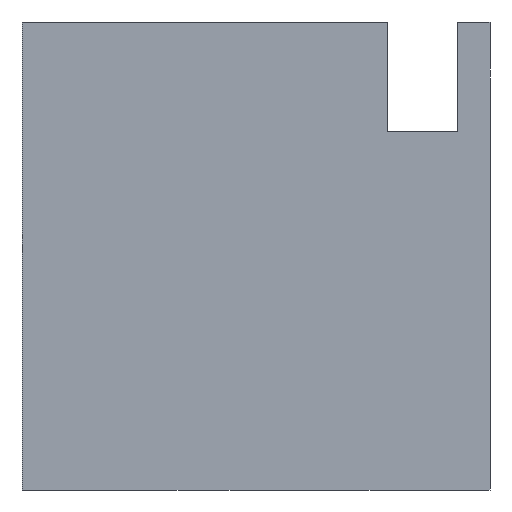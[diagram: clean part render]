
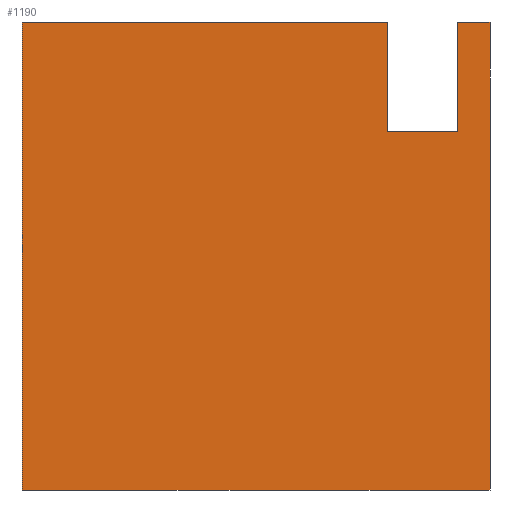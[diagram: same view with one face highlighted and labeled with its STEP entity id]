
A CAD part, left-side view. The second image highlights one B-rep face of the part: STEP entity #1190.
In plain terms, the highlighted planar face has unit normal (-1, 0, 0).
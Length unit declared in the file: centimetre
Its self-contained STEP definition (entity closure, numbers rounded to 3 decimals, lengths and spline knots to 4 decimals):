
#7 = CARTESIAN_POINT ( 'NONE',  ( 0., 1000., 1000. ) ) ;
#11 = VERTEX_POINT ( 'NONE', #374 ) ;
#23 = CARTESIAN_POINT ( 'NONE',  ( 0., 69.7175, 765.1463 ) ) ;
#89 = EDGE_CURVE ( 'NONE', #602, #867, #300, .T. ) ;
#97 = DIRECTION ( 'NONE',  ( 0., 0., -1. ) ) ;
#117 = CARTESIAN_POINT ( 'NONE',  ( 0., 220.0731, 765.1463 ) ) ;
#118 = EDGE_CURVE ( 'NONE', #637, #705, #558, .T. ) ;
#151 = CARTESIAN_POINT ( 'NONE',  ( 0., 1000., 1000. ) ) ;
#164 = ORIENTED_EDGE ( 'NONE', *, *, #118, .F. ) ;
#191 = LINE ( 'NONE', #924, #622 ) ;
#194 = EDGE_CURVE ( 'NONE', #754, #230, #769, .T. ) ;
#205 = LINE ( 'NONE', #23, #477 ) ;
#208 = ORIENTED_EDGE ( 'NONE', *, *, #376, .F. ) ;
#230 = VERTEX_POINT ( 'NONE', #336 ) ;
#244 = EDGE_CURVE ( 'NONE', #705, #1095, #785, .T. ) ;
#251 = DIRECTION ( 'NONE',  ( 0., -1., 0. ) ) ;
#291 = DIRECTION ( 'NONE',  ( 0., 0., -1. ) ) ;
#300 = LINE ( 'NONE', #750, #948 ) ;
#311 = DIRECTION ( 'NONE',  ( 0., 0., 1. ) ) ;
#315 = CARTESIAN_POINT ( 'NONE',  ( 0., 0., 1000. ) ) ;
#327 = DIRECTION ( 'NONE',  ( 0., -1., 0. ) ) ;
#336 = CARTESIAN_POINT ( 'NONE',  ( 0., 0., 0. ) ) ;
#354 = VECTOR ( 'NONE', #251, 100. ) ;
#355 = ORIENTED_EDGE ( 'NONE', *, *, #636, .T. ) ;
#356 = DIRECTION ( 'NONE',  ( 1., 0., 0. ) ) ;
#365 = ORIENTED_EDGE ( 'NONE', *, *, #244, .F. ) ;
#374 = CARTESIAN_POINT ( 'NONE',  ( 0., 69.7175, 1000. ) ) ;
#376 = EDGE_CURVE ( 'NONE', #11, #754, #1059, .T. ) ;
#393 = EDGE_CURVE ( 'NONE', #602, #637, #520, .T. ) ;
#450 = ORIENTED_EDGE ( 'NONE', *, *, #194, .F. ) ;
#472 = CARTESIAN_POINT ( 'NONE',  ( 0., 220.0731, 1000. ) ) ;
#477 = VECTOR ( 'NONE', #311, 100. ) ;
#520 = LINE ( 'NONE', #720, #354 ) ;
#547 = VECTOR ( 'NONE', #327, 100. ) ;
#558 = LINE ( 'NONE', #922, #723 ) ;
#602 = VERTEX_POINT ( 'NONE', #7 ) ;
#619 = FACE_OUTER_BOUND ( 'NONE', #1043, .T. ) ;
#622 = VECTOR ( 'NONE', #909, 100. ) ;
#626 = PLANE ( 'NONE',  #711 ) ;
#636 = EDGE_CURVE ( 'NONE', #867, #230, #191, .T. ) ;
#637 = VERTEX_POINT ( 'NONE', #472 ) ;
#641 = VECTOR ( 'NONE', #1149, 100. ) ;
#683 = CARTESIAN_POINT ( 'NONE',  ( 0., 69.7175, 765.1463 ) ) ;
#687 = DIRECTION ( 'NONE',  ( 0., 0., -1. ) ) ;
#705 = VERTEX_POINT ( 'NONE', #117 ) ;
#711 = AXIS2_PLACEMENT_3D ( 'NONE', #993, #356, #727 ) ;
#720 = CARTESIAN_POINT ( 'NONE',  ( 0., 1000., 1000. ) ) ;
#723 = VECTOR ( 'NONE', #97, 100. ) ;
#727 = DIRECTION ( 'NONE',  ( 0., 0., -1. ) ) ;
#750 = CARTESIAN_POINT ( 'NONE',  ( 0., 1000., 1000. ) ) ;
#754 = VERTEX_POINT ( 'NONE', #856 ) ;
#769 = LINE ( 'NONE', #315, #1099 ) ;
#785 = LINE ( 'NONE', #1153, #547 ) ;
#810 = ORIENTED_EDGE ( 'NONE', *, *, #393, .F. ) ;
#848 = CARTESIAN_POINT ( 'NONE',  ( 0., 1000., 0. ) ) ;
#856 = CARTESIAN_POINT ( 'NONE',  ( 0., 0., 1000. ) ) ;
#867 = VERTEX_POINT ( 'NONE', #848 ) ;
#909 = DIRECTION ( 'NONE',  ( 0., -1., 0. ) ) ;
#922 = CARTESIAN_POINT ( 'NONE',  ( 0., 220.0731, 765.1463 ) ) ;
#923 = ORIENTED_EDGE ( 'NONE', *, *, #947, .F. ) ;
#924 = CARTESIAN_POINT ( 'NONE',  ( 0., 1000., 0. ) ) ;
#947 = EDGE_CURVE ( 'NONE', #1095, #11, #205, .T. ) ;
#948 = VECTOR ( 'NONE', #291, 100. ) ;
#993 = CARTESIAN_POINT ( 'NONE',  ( 0., 1000., 1000. ) ) ;
#1043 = EDGE_LOOP ( 'NONE', ( #365, #164, #810, #1169, #355, #450, #208, #923 ) ) ;
#1059 = LINE ( 'NONE', #151, #641 ) ;
#1095 = VERTEX_POINT ( 'NONE', #683 ) ;
#1099 = VECTOR ( 'NONE', #687, 100. ) ;
#1149 = DIRECTION ( 'NONE',  ( 0., -1., 0. ) ) ;
#1153 = CARTESIAN_POINT ( 'NONE',  ( 0., 69.7175, 765.1463 ) ) ;
#1169 = ORIENTED_EDGE ( 'NONE', *, *, #89, .T. ) ;
#1190 = ADVANCED_FACE ( 'NONE', ( #619 ), #626, .F. ) ;
